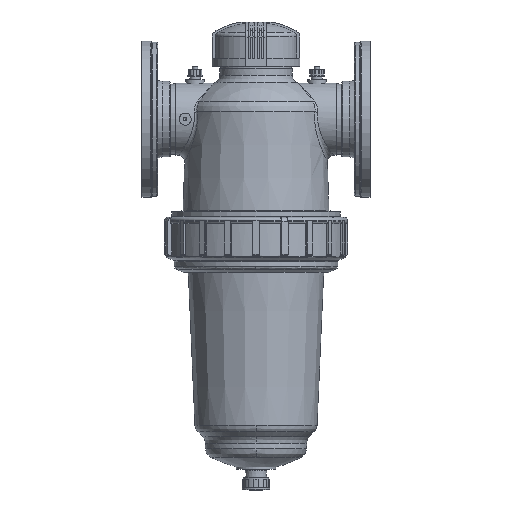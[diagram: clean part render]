
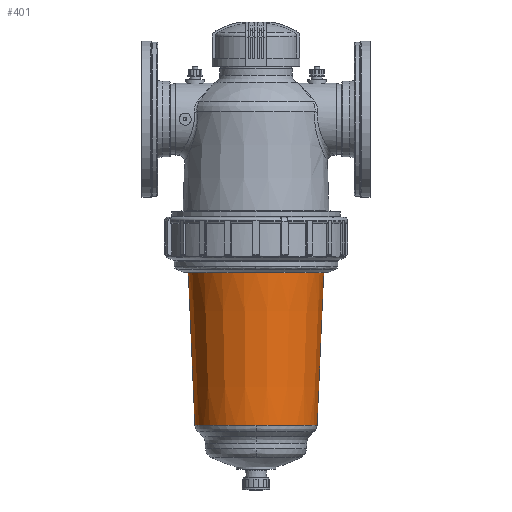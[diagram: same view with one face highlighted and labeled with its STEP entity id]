
A CAD part, left-side view. The second image highlights one B-rep face of the part: STEP entity #401.
In plain terms, the highlighted conical face has half-angle 2.5 degrees and reference radius 84.963 mm.
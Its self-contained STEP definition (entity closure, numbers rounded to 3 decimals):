
#401 = ADVANCED_FACE( '', ( #1507, #1508 ), #1509, .T. );
#1507 = FACE_OUTER_BOUND( '', #3347, .T. );
#1508 = FACE_BOUND( '', #3348, .T. );
#1509 = CONICAL_SURFACE( '', #3349, 84.963, 0.044 );
#3347 = EDGE_LOOP( '', ( #9358 ) );
#3348 = EDGE_LOOP( '', ( #9359, #9360 ) );
#3349 = AXIS2_PLACEMENT_3D( '', #9361, #9362, #9363 );
#9358 = ORIENTED_EDGE( '', *, *, #14476, .T. );
#9359 = ORIENTED_EDGE( '', *, *, #14485, .F. );
#9360 = ORIENTED_EDGE( '', *, *, #14486, .F. );
#9361 = CARTESIAN_POINT( '', ( 0., 0., -2.492 ) );
#9362 = DIRECTION( '', ( 0., 0., 1. ) );
#9363 = DIRECTION( '', ( 0., 1., 0. ) );
#14476 = EDGE_CURVE( '', #17013, #17013, #17014, .T. );
#14485 = EDGE_CURVE( '', #17031, #17032, #17033, .T. );
#14486 = EDGE_CURVE( '', #17032, #17031, #17034, .T. );
#17013 = VERTEX_POINT( '', #22340 );
#17014 = CIRCLE( '', #22341, 84.329 );
#17031 = VERTEX_POINT( '', #22362 );
#17032 = VERTEX_POINT( '', #22363 );
#17033 = B_SPLINE_CURVE_WITH_KNOTS( '', 3, ( #22364, #22365, #22366, #22367, #22368, #22369, #22370, #22371, #22372, #22373, #22374, #22375, #22376, #22377, #22378, #22379, #22380, #22381, #22382, #22383, #22384, #22385, #22386, #22387, #22388, #22389, #22390, #22391, #22392, #22393, #22394, #22395, #22396, #22397, #22398, #22399, #22400, #22401, #22402 ), .UNSPECIFIED., .F., .F., ( 4, 1, 1, 1, 1, 1, 1, 1, 1, 1, 1, 1, 1, 1, 1, 1, 1, 1, 1, 1, 1, 1, 1, 1, 1, 1, 1, 1, 1, 1, 1, 1, 1, 1, 1, 1, 4 ), ( 0., 0.031, 0.063, 0.094, 0.109, 0.125, 0.156, 0.188, 0.203, 0.219, 0.25, 0.281, 0.313, 0.344, 0.375, 0.406, 0.438, 0.469, 0.5, 0.531, 0.562, 0.594, 0.625, 0.656, 0.687, 0.719, 0.75, 0.781, 0.797, 0.812, 0.844, 0.875, 0.891, 0.906, 0.937, 0.969, 1. ), .UNSPECIFIED. );
#17034 = B_SPLINE_CURVE_WITH_KNOTS( '', 3, ( #22403, #22404, #22405, #22406, #22407, #22408, #22409, #22410, #22411, #22412, #22413, #22414, #22415, #22416, #22417, #22418, #22419, #22420, #22421, #22422, #22423, #22424, #22425, #22426, #22427, #22428, #22429, #22430, #22431, #22432, #22433, #22434, #22435, #22436, #22437, #22438, #22439, #22440, #22441 ), .UNSPECIFIED., .F., .F., ( 4, 1, 1, 1, 1, 1, 1, 1, 1, 1, 1, 1, 1, 1, 1, 1, 1, 1, 1, 1, 1, 1, 1, 1, 1, 1, 1, 1, 1, 1, 1, 1, 1, 1, 1, 1, 4 ), ( 0., 0.031, 0.063, 0.094, 0.109, 0.125, 0.156, 0.188, 0.203, 0.219, 0.25, 0.281, 0.313, 0.344, 0.375, 0.406, 0.438, 0.469, 0.5, 0.531, 0.562, 0.594, 0.625, 0.656, 0.687, 0.719, 0.75, 0.781, 0.797, 0.812, 0.844, 0.875, 0.891, 0.906, 0.937, 0.969, 1. ), .UNSPECIFIED. );
#22340 = CARTESIAN_POINT( '', ( 0., 84.329, -17.022 ) );
#22341 = AXIS2_PLACEMENT_3D( '', #30598, #30599, #30600 );
#22362 = CARTESIAN_POINT( '', ( 76.02, 0., -207.338 ) );
#22363 = CARTESIAN_POINT( '', ( -76.02, 0., -207.338 ) );
#22364 = CARTESIAN_POINT( '', ( 76.02, 0., -207.338 ) );
#22365 = CARTESIAN_POINT( '', ( 76.02, -2.488, -207.338 ) );
#22366 = CARTESIAN_POINT( '', ( 75.775, -7.462, -207.338 ) );
#22367 = CARTESIAN_POINT( '', ( 74.679, -14.855, -207.338 ) );
#22368 = CARTESIAN_POINT( '', ( 73.165, -20.896, -207.338 ) );
#22369 = CARTESIAN_POINT( '', ( 71.605, -25.621, -207.338 ) );
#22370 = CARTESIAN_POINT( '', ( 69.814, -30.263, -207.338 ) );
#22371 = CARTESIAN_POINT( '', ( 67.151, -35.893, -207.338 ) );
#22372 = CARTESIAN_POINT( '', ( 63.949, -41.235, -207.338 ) );
#22373 = CARTESIAN_POINT( '', ( 61.084, -45.303, -207.338 ) );
#22374 = CARTESIAN_POINT( '', ( 58.023, -49.226, -207.338 ) );
#22375 = CARTESIAN_POINT( '', ( 53.84, -53.841, -207.338 ) );
#22376 = CARTESIAN_POINT( '', ( 48.304, -58.858, -207.338 ) );
#22377 = CARTESIAN_POINT( '', ( 42.302, -63.31, -207.338 ) );
#22378 = CARTESIAN_POINT( '', ( 35.893, -67.151, -207.338 ) );
#22379 = CARTESIAN_POINT( '', ( 29.138, -70.346, -207.338 ) );
#22380 = CARTESIAN_POINT( '', ( 22.103, -72.863, -207.338 ) );
#22381 = CARTESIAN_POINT( '', ( 14.855, -74.679, -207.338 ) );
#22382 = CARTESIAN_POINT( '', ( 7.463, -75.775, -207.338 ) );
#22383 = CARTESIAN_POINT( '', ( 0., -76.142, -207.338 ) );
#22384 = CARTESIAN_POINT( '', ( -7.463, -75.775, -207.338 ) );
#22385 = CARTESIAN_POINT( '', ( -14.855, -74.679, -207.338 ) );
#22386 = CARTESIAN_POINT( '', ( -22.103, -72.863, -207.338 ) );
#22387 = CARTESIAN_POINT( '', ( -29.138, -70.346, -207.338 ) );
#22388 = CARTESIAN_POINT( '', ( -35.893, -67.151, -207.338 ) );
#22389 = CARTESIAN_POINT( '', ( -42.302, -63.31, -207.338 ) );
#22390 = CARTESIAN_POINT( '', ( -48.304, -58.858, -207.338 ) );
#22391 = CARTESIAN_POINT( '', ( -53.84, -53.841, -207.338 ) );
#22392 = CARTESIAN_POINT( '', ( -58.023, -49.226, -207.338 ) );
#22393 = CARTESIAN_POINT( '', ( -61.084, -45.303, -207.338 ) );
#22394 = CARTESIAN_POINT( '', ( -63.949, -41.235, -207.338 ) );
#22395 = CARTESIAN_POINT( '', ( -67.151, -35.893, -207.338 ) );
#22396 = CARTESIAN_POINT( '', ( -69.814, -30.263, -207.338 ) );
#22397 = CARTESIAN_POINT( '', ( -71.605, -25.621, -207.338 ) );
#22398 = CARTESIAN_POINT( '', ( -73.165, -20.896, -207.338 ) );
#22399 = CARTESIAN_POINT( '', ( -74.679, -14.855, -207.338 ) );
#22400 = CARTESIAN_POINT( '', ( -75.775, -7.462, -207.338 ) );
#22401 = CARTESIAN_POINT( '', ( -76.02, -2.488, -207.338 ) );
#22402 = CARTESIAN_POINT( '', ( -76.02, 0., -207.338 ) );
#22403 = CARTESIAN_POINT( '', ( -76.02, 0., -207.338 ) );
#22404 = CARTESIAN_POINT( '', ( -76.02, 2.488, -207.338 ) );
#22405 = CARTESIAN_POINT( '', ( -75.775, 7.462, -207.338 ) );
#22406 = CARTESIAN_POINT( '', ( -74.679, 14.855, -207.338 ) );
#22407 = CARTESIAN_POINT( '', ( -73.165, 20.896, -207.338 ) );
#22408 = CARTESIAN_POINT( '', ( -71.605, 25.621, -207.338 ) );
#22409 = CARTESIAN_POINT( '', ( -69.814, 30.263, -207.338 ) );
#22410 = CARTESIAN_POINT( '', ( -67.151, 35.893, -207.338 ) );
#22411 = CARTESIAN_POINT( '', ( -63.949, 41.235, -207.338 ) );
#22412 = CARTESIAN_POINT( '', ( -61.084, 45.303, -207.338 ) );
#22413 = CARTESIAN_POINT( '', ( -58.023, 49.226, -207.338 ) );
#22414 = CARTESIAN_POINT( '', ( -53.84, 53.841, -207.338 ) );
#22415 = CARTESIAN_POINT( '', ( -48.304, 58.858, -207.338 ) );
#22416 = CARTESIAN_POINT( '', ( -42.302, 63.31, -207.338 ) );
#22417 = CARTESIAN_POINT( '', ( -35.893, 67.151, -207.338 ) );
#22418 = CARTESIAN_POINT( '', ( -29.138, 70.346, -207.338 ) );
#22419 = CARTESIAN_POINT( '', ( -22.103, 72.863, -207.338 ) );
#22420 = CARTESIAN_POINT( '', ( -14.855, 74.679, -207.338 ) );
#22421 = CARTESIAN_POINT( '', ( -7.463, 75.775, -207.338 ) );
#22422 = CARTESIAN_POINT( '', ( 0., 76.142, -207.338 ) );
#22423 = CARTESIAN_POINT( '', ( 7.463, 75.775, -207.338 ) );
#22424 = CARTESIAN_POINT( '', ( 14.855, 74.679, -207.338 ) );
#22425 = CARTESIAN_POINT( '', ( 22.103, 72.863, -207.338 ) );
#22426 = CARTESIAN_POINT( '', ( 29.138, 70.346, -207.338 ) );
#22427 = CARTESIAN_POINT( '', ( 35.893, 67.151, -207.338 ) );
#22428 = CARTESIAN_POINT( '', ( 42.302, 63.31, -207.338 ) );
#22429 = CARTESIAN_POINT( '', ( 48.304, 58.858, -207.338 ) );
#22430 = CARTESIAN_POINT( '', ( 53.84, 53.841, -207.338 ) );
#22431 = CARTESIAN_POINT( '', ( 58.023, 49.226, -207.338 ) );
#22432 = CARTESIAN_POINT( '', ( 61.084, 45.303, -207.338 ) );
#22433 = CARTESIAN_POINT( '', ( 63.949, 41.235, -207.338 ) );
#22434 = CARTESIAN_POINT( '', ( 67.151, 35.893, -207.338 ) );
#22435 = CARTESIAN_POINT( '', ( 69.814, 30.263, -207.338 ) );
#22436 = CARTESIAN_POINT( '', ( 71.605, 25.621, -207.338 ) );
#22437 = CARTESIAN_POINT( '', ( 73.165, 20.896, -207.338 ) );
#22438 = CARTESIAN_POINT( '', ( 74.679, 14.855, -207.338 ) );
#22439 = CARTESIAN_POINT( '', ( 75.775, 7.462, -207.338 ) );
#22440 = CARTESIAN_POINT( '', ( 76.02, 2.488, -207.338 ) );
#22441 = CARTESIAN_POINT( '', ( 76.02, 0., -207.338 ) );
#30598 = CARTESIAN_POINT( '', ( 0., 0., -17.022 ) );
#30599 = DIRECTION( '', ( 0., 0., -1. ) );
#30600 = DIRECTION( '', ( 0., 1., 0. ) );
